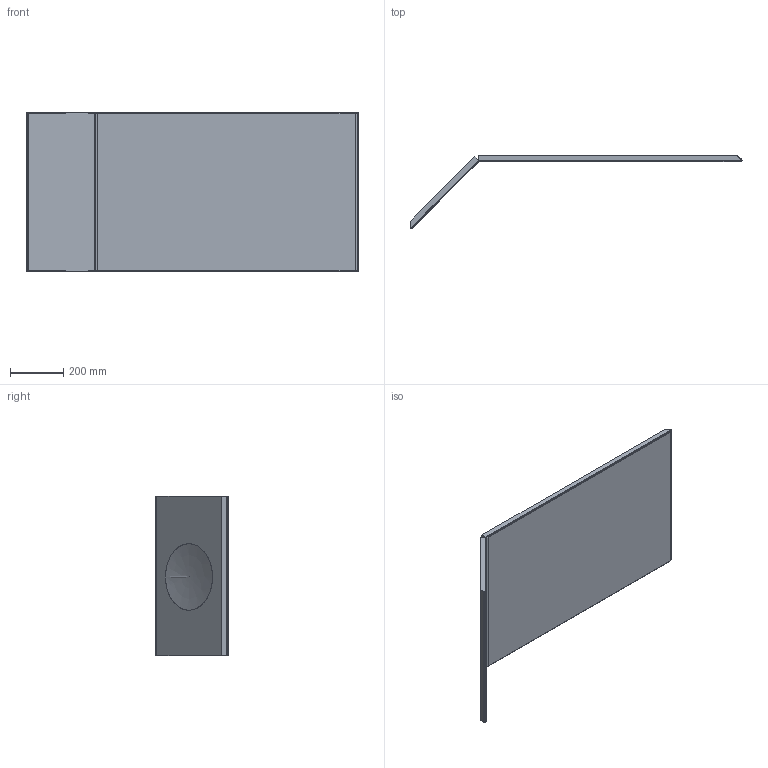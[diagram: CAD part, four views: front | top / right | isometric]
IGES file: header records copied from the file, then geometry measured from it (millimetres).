
Start section: Data from Parasolid IGES Translator 19.0.9, Copyright(c) 2006 Siemens PL M Software. All Rights Reserved.
Global section: file name: noorth-mirror-H 60 D 2,5 W 135_4239.igs; native system: By Siemens PLM Incorporated; preprocessor: XPlus GENERIC/IGES 19.0.9; author: Noname; organization: Noname; date: 20210721.092208; units: metre
Bounding box: 1247.36 x 274.85 x 600 mm (x, y, z)
Volume: 18013307.7 mm3; surface area: 3481520.5 mm2
Topology: 7 solids, 7 shells, 101 faces, 215 edges, 127 vertices
Faces by surface type: plane 83, cylinder 15, bspline 3
Full cylindrical faces by diameter (mm): 250 x1
